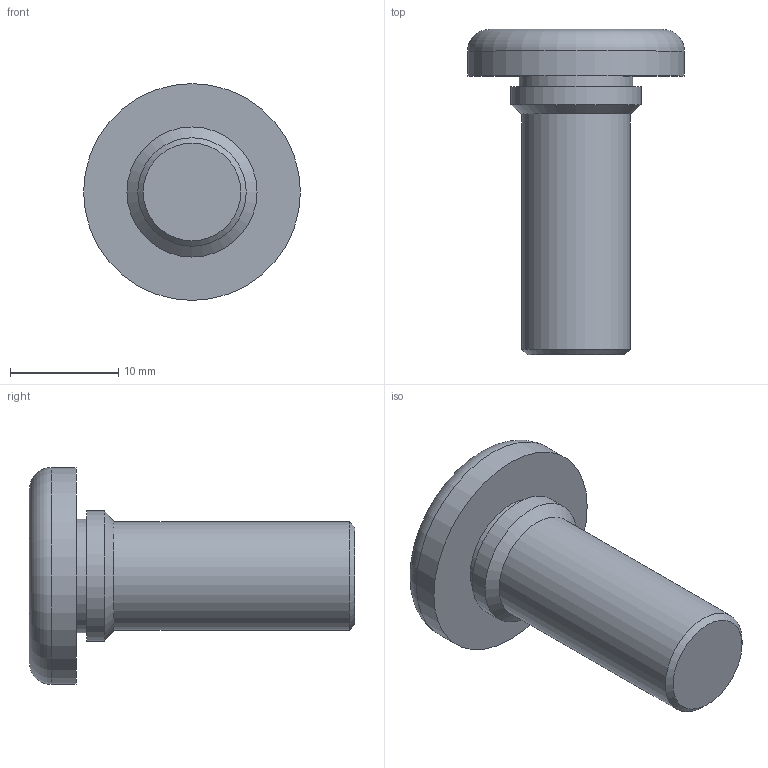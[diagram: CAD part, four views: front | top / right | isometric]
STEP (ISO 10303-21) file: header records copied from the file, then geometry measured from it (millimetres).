
FILE_DESCRIPTION(/* description */ (''),/* implementation_level */ '2;1');
FILE_NAME(/* name */ 'C:\Users\keval.kumar\Desktop\Fastit\Press Screw\M10\Press Screw_M10 x30.stp',/* time_stamp */ '2024-03-12T17:51:05+05:00',/* author */ ('keval.kumar'),/* organization */ (''),/* preprocessor_version */ 'ST-DEVELOPER v18.1',/* originating_system */ 'Autodesk Inventor 2022',/* authorisation */ '');
FILE_SCHEMA (('AUTOMOTIVE_DESIGN { 1 0 10303 214 3 1 1 }'));
Length unit declared in the file: millimetre
Products named in the file (1): Press Screw_M10 x30
Bounding box: 20 x 30 x 20 mm (x, y, z)
Volume: 3393.5 mm3; surface area: 1689.9 mm2
Topology: 1 solids, 1 shells, 11 faces, 19 edges, 12 vertices
Faces by surface type: cylinder 4, plane 4, cone 2, torus 1
Full cylindrical faces by diameter (mm): 10 x1, 10.5 x1, 12 x1, 20 x1
Entity records: 313 total; most frequent: DIRECTION 56, CARTESIAN_POINT 43, ORIENTED_EDGE 38, AXIS2_PLACEMENT_3D 25, EDGE_CURVE 19, EDGE_LOOP 13, CIRCLE 13, VERTEX_POINT 12
